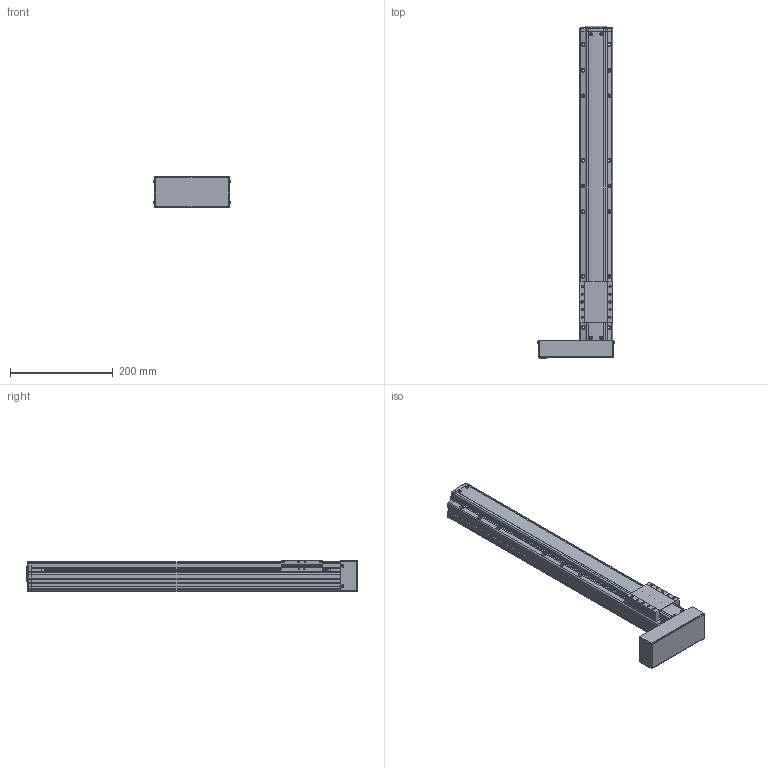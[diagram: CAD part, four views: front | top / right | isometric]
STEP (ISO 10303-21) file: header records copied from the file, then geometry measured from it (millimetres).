
FILE_DESCRIPTION(('STEP AP214'),'1');
FILE_NAME('Z:/Web/3D/PSA65/STP/PSA65-450 (3D)/PSA65ㅁㅁ-450PL.stp','2014-06-25T04:55:06',(' '),(' '),'Spatial InterOp 3D',' ',' ');
FILE_SCHEMA(('automotive_design'));
Length unit declared in the file: millimetre
Products named in the file (49): SLIDE; RRCV-PA060; 1; 2; 3; 4; 5; 6; 7; 8; 9; 10; 11; 12; 13; 14; 15; 16; 17; 18; 19; 20; 21; 22; 23; 24; 25; 26; 27; 28; 29; 30; 31; 스크루 : Round - M3.0 x 8.0; RN8 x 0.75; SHAFT-SAN65; BASE; 스크루 : Round - M3.0 x 6.0; BTCV-SAN65; BHCS M3 X 6L
Bounding box: 149.13 x 644.8 x 62 mm (x, y, z)
Volume: 2159986.7 mm3; surface area: 285069.4 mm2
Topology: 49 solids, 49 shells, 1771 faces, 4691 edges, 2984 vertices
Faces by surface type: plane 1038, cylinder 493, cone 175, sphere 30, bspline 19, torus 16
Entity records: 70232 total; most frequent: CARTESIAN_POINT 11068, DIRECTION 9350, ORIENTED_EDGE 9130, EDGE_CURVE 4565, LINE 3218, VECTOR 3218, AXIS2_PLACEMENT_3D 3066, VERTEX_POINT 2984
